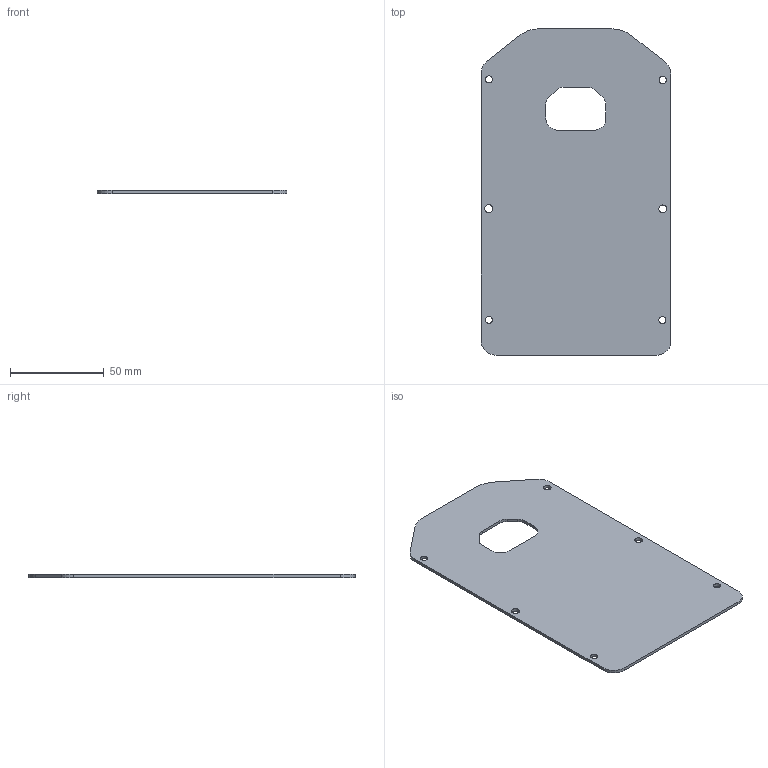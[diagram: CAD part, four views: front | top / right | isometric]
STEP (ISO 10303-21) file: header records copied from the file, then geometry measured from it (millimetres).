
FILE_DESCRIPTION(('Open CASCADE Model'),'2;1');
FILE_NAME('Open CASCADE Shape Model','2026-10-01T15:23:51',('Author'),( 'Open CASCADE'),'Open CASCADE STEP processor 7.9','Open CASCADE 7.9' ,'Unknown');
FILE_SCHEMA(('AUTOMOTIVE_DESIGN { 1 0 10303 214 1 1 1 1 }'));
Length unit declared in the file: millimetre
Products named in the file (1): Open CASCADE STEP translator 7.9 12
Bounding box: 101 x 173.62 x 1.6 mm (x, y, z)
Volume: 26015 mm3; surface area: 33613.2 mm2
Topology: 1 solids, 1 shells, 32 faces, 90 edges, 60 vertices
Faces by surface type: cylinder 18, plane 14
Full cylindrical faces by diameter (mm): 3.761 x1, 3.77 x1, 3.824 x1, 3.879 x1, 4.12 x1, 4.282 x1
Entity records: 2306 total; most frequent: CARTESIAN_POINT 531, DIRECTION 324, ORIENTED_EDGE 180, PCURVE 180, DEFINITIONAL_REPRESENTATION 180, LINE 174, VECTOR 174, EDGE_CURVE 90
